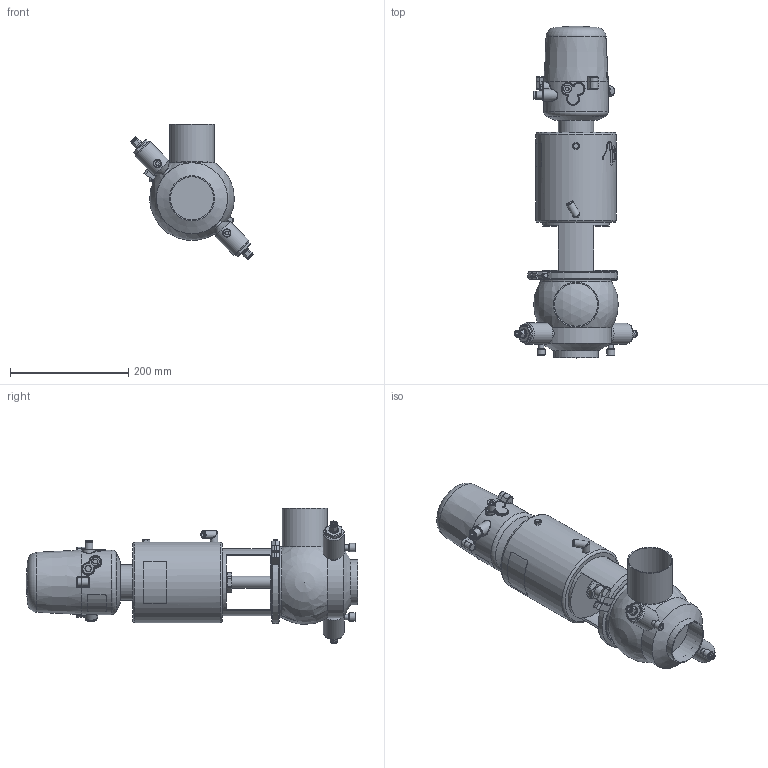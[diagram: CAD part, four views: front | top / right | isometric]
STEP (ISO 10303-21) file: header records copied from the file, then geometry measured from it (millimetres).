
FILE_DESCRIPTION (( 'STEP AP214' ), '1' );
FILE_NAME ('INNOVA D L W OD 3 T3 AS NC & C-TOP S_10.246.16.0003.STEP', '2024-08-08T09:44:00', ( '' ), ( '' ), 'SwSTEP 2.0', 'SolidWorks 2023', '' );
FILE_SCHEMA (( 'AUTOMOTIVE_DESIGN' ));
Length unit declared in the file: millimetre
Products named in the file (7): 10.240.15.0010_DN 080; 10.246.15.0001_OD 3"; 10.240.15.0014_T3 AS P0; 10.240.15.0017_Estàndard; 10.240.15.0001_DN 080; 10.426.15.0001_C-TOP S - 1 EV; INNOVA D L W OD 3 T3 AS NC & C-TOP S_10.246.16.0003
Assembly tree (6 placements, depth 2):
  INNOVA D L W OD 3 T3 AS NC & C-TOP S_10.246.16.0003
    10.246.15.0001_OD 3"
    10.240.15.0010_DN 080
    10.240.15.0014_T3 AS P0
    10.240.15.0017_Estàndard
    10.426.15.0001_C-TOP S - 1 EV
    10.240.15.0001_DN 080
Bounding box: 207.32 x 561 x 228.66 mm (x, y, z)
Volume: 5628942.9 mm3; surface area: 418997.8 mm2
Topology: 6 solids, 6 shells, 1195 faces, 2846 edges, 1889 vertices
Faces by surface type: plane 441, cylinder 350, cone 202, bspline 160, torus 36, sphere 6
Full cylindrical faces by diameter (mm): 0.371 x17, 0.512 x16, 0.658 x16, 0.795 x16, 0.94 x15, 1.098 x15, 1.241 x13, 1.382 x13, 1.523 x11, 1.669 x10, 2.201 x1, 4 x2, 5.5 x2, 6 x6, 6.15 x1, 8 x4, 8.5 x1, 9 x2, 10 x3, 10.5 x1, 11 x2, 12 x4, 12.5 x3, 13 x2, 13.5 x2, 14 x4, 15 x2, 16 x1, 17 x3, 20 x3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
Entity records: 60330 total; most frequent: CARTESIAN_POINT 28475, ORIENTED_EDGE 4812, DIRECTION 3997, EDGE_CURVE 2406, VERTEX_POINT 1709, EDGE_LOOP 1691, AXIS2_PLACEMENT_3D 1616, FACE_OUTER_BOUND 1426
